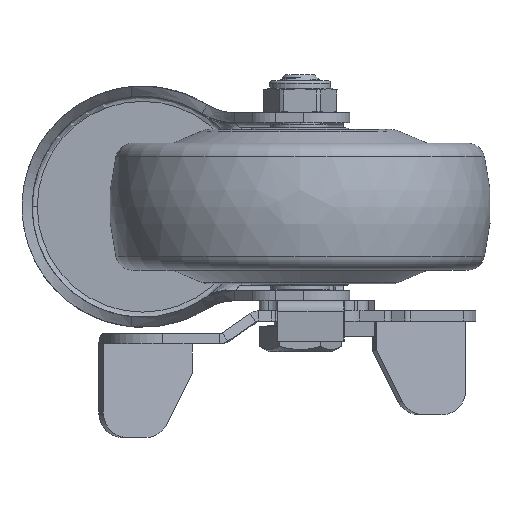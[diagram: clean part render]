
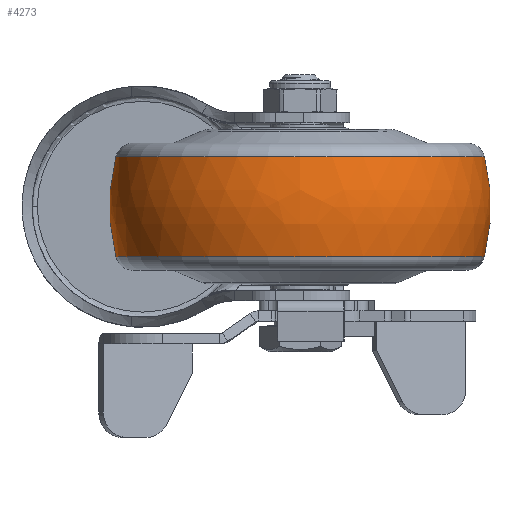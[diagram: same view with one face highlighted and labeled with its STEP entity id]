
A CAD part, front view. The second image highlights one B-rep face of the part: STEP entity #4273.
In plain terms, the highlighted free-form (B-spline) face has degree [3, 3] with [7, 4] control points.
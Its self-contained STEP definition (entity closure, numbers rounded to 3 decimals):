
#3811=CARTESIAN_POINT('',(0.,-2.5,0.));
#3812=DIRECTION('',(0.,0.,1.));
#3813=DIRECTION('',(0.247,0.969,0.));
#3814=AXIS2_PLACEMENT_3D('',#3811,#3812,#3813);
#3816=CARTESIAN_POINT('',(0.,2.5,0.));
#3817=DIRECTION('',(0.,0.,-1.));
#3818=DIRECTION('',(0.247,-0.969,0.));
#3819=AXIS2_PLACEMENT_3D('',#3816,#3817,#3818);
#3821=CARTESIAN_POINT('',(9.863,0.,0.));
#3822=DIRECTION('',(-1.,0.,0.));
#3823=DIRECTION('',(0.,1.,0.));
#3824=AXIS2_PLACEMENT_3D('',#3821,#3822,#3823);
#3836=CARTESIAN_POINT('',(-9.863,0.,0.));
#3837=DIRECTION('',(-1.,0.,0.));
#3838=DIRECTION('',(0.,1.,0.));
#3839=AXIS2_PLACEMENT_3D('',#3836,#3837,#3838);
#4116=CARTESIAN_POINT('',(9.863,36.265,0.));
#4117=CARTESIAN_POINT('',(-9.863,36.265,0.));
#4118=VERTEX_POINT('',#4116);
#4119=VERTEX_POINT('',#4117);
#4156=CARTESIAN_POINT('',(9.863,-36.265,0.));
#4157=CARTESIAN_POINT('',(-9.863,-36.265,0.));
#4158=VERTEX_POINT('',#4156);
#4159=VERTEX_POINT('',#4157);
#4236=CARTESIAN_POINT('',(-10.249,-36.093,
2.271));
#4237=CARTESIAN_POINT('',(-3.494,-37.88,
2.383));
#4238=CARTESIAN_POINT('',(3.494,-37.88,2.383));
#4239=CARTESIAN_POINT('',(10.249,-36.093,2.271));
#4240=CARTESIAN_POINT('',(-10.249,-37.491,
-19.941));
#4241=CARTESIAN_POINT('',(-3.494,-39.347,
-20.928));
#4242=CARTESIAN_POINT('',(3.494,-39.347,
-20.928));
#4243=CARTESIAN_POINT('',(10.249,-37.491,
-19.941));
#4244=CARTESIAN_POINT('',(-10.249,-22.256,
-36.165));
#4245=CARTESIAN_POINT('',(-3.494,-23.358,
-37.955));
#4246=CARTESIAN_POINT('',(3.494,-23.358,
-37.955));
#4247=CARTESIAN_POINT('',(10.249,-22.256,
-36.165));
#4248=CARTESIAN_POINT('',(-10.249,0.,-36.165));
#4249=CARTESIAN_POINT('',(-3.494,0.,-37.955));
#4250=CARTESIAN_POINT('',(3.494,0.,-37.955));
#4251=CARTESIAN_POINT('',(10.249,0.,-36.165));
#4252=CARTESIAN_POINT('',(-10.249,22.256,
-36.165));
#4253=CARTESIAN_POINT('',(-3.494,23.358,
-37.955));
#4254=CARTESIAN_POINT('',(3.494,23.358,-37.955));
#4255=CARTESIAN_POINT('',(10.249,22.256,-36.165));
#4256=CARTESIAN_POINT('',(-10.249,37.491,
-19.941));
#4257=CARTESIAN_POINT('',(-3.494,39.347,
-20.928));
#4258=CARTESIAN_POINT('',(3.494,39.347,-20.928));
#4259=CARTESIAN_POINT('',(10.249,37.491,-19.941));
#4260=CARTESIAN_POINT('',(-10.249,36.093,2.271));
#4261=CARTESIAN_POINT('',(-3.494,37.88,2.383));
#4262=CARTESIAN_POINT('',(3.494,37.88,2.383));
#4263=CARTESIAN_POINT('',(10.249,36.093,2.271));
#4264=(BOUNDED_SURFACE()B_SPLINE_SURFACE(3,3,((#4236,#4237,#4238,#4239),(#4240,
#4241,#4242,#4243),(#4244,#4245,#4246,#4247),(#4248,#4249,#4250,#4251),(#4252,
#4253,#4254,#4255),(#4256,#4257,#4258,#4259),(#4260,#4261,#4262,#4263)),
.UNSPECIFIED.,.F.,.F.,.F.)B_SPLINE_SURFACE_WITH_KNOTS((4,3,4),(4,4),(0.,1.,
2.),(0.,1.),.UNSPECIFIED.)GEOMETRIC_REPRESENTATION_ITEM()RATIONAL_B_SPLINE_SURFACE(((1.207,1.181,1.181,1.207),(
0.953,0.932,0.932,0.953),(
0.953,0.932,0.932,0.953),(
1.207,1.181,1.181,1.207),(
0.953,0.932,0.932,0.953),(
0.953,0.932,0.932,0.953),(
1.207,1.181,1.181,1.207)))REPRESENTATION_ITEM('')SURFACE());
#4265=ORIENTED_EDGE('',*,*,#4225,.T.);
#4267=ORIENTED_EDGE('',*,*,#4266,.T.);
#4268=ORIENTED_EDGE('',*,*,#4229,.F.);
#4270=ORIENTED_EDGE('',*,*,#4269,.F.);
#4271=EDGE_LOOP('',(#4265,#4267,#4268,#4270));
#4272=FACE_OUTER_BOUND('',#4271,.F.);
#3815=CIRCLE('',#3814,40.);
#3820=CIRCLE('',#3819,40.);
#3825=CIRCLE('',#3824,36.265);
#3840=CIRCLE('',#3839,36.265);
#4225=EDGE_CURVE('',#4118,#4119,#3815,.T.);
#4229=EDGE_CURVE('',#4158,#4159,#3820,.T.);
#4266=EDGE_CURVE('',#4119,#4159,#3840,.T.);
#4269=EDGE_CURVE('',#4118,#4158,#3825,.T.);
#4273=ADVANCED_FACE('',(#4272),#4264,.T.);
